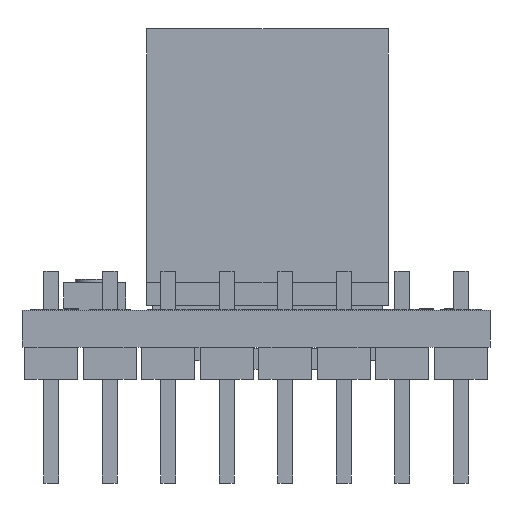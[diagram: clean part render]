
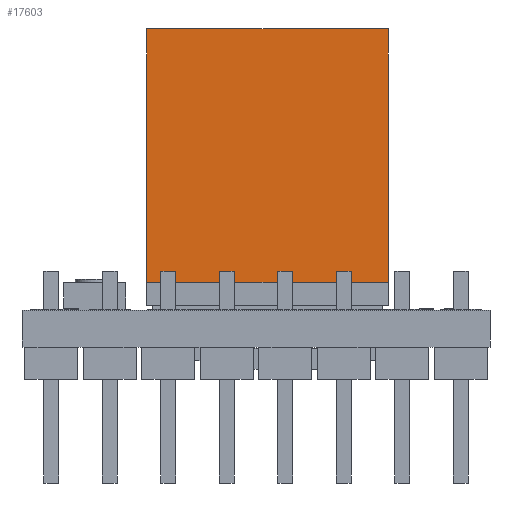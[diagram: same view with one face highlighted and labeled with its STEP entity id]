
A CAD part, left-side view. The second image highlights one B-rep face of the part: STEP entity #17603.
In plain terms, the highlighted planar face has unit normal (-1, 0, 0).
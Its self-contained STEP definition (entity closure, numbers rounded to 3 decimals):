
#17603 = ADVANCED_FACE('',(#17604),#17618,.F.);
#17604 = FACE_BOUND('',#17605,.F.);
#17605 = EDGE_LOOP('',(#17606,#17641,#17669,#17697));
#17606 = ORIENTED_EDGE('',*,*,#17607,.F.);
#17607 = EDGE_CURVE('',#17608,#17610,#17612,.T.);
#17608 = VERTEX_POINT('',#17609);
#17609 = CARTESIAN_POINT('',(-4.175,-5.75,11.315));
#17610 = VERTEX_POINT('',#17611);
#17611 = CARTESIAN_POINT('',(-4.175,-5.75,22.315));
#17612 = SURFACE_CURVE('',#17613,(#17617,#17629),.PCURVE_S1.);
#17613 = LINE('',#17614,#17615);
#17614 = CARTESIAN_POINT('',(-4.175,-5.75,11.315));
#17615 = VECTOR('',#17616,1.);
#17616 = DIRECTION('',(0.,0.,1.));
#17617 = PCURVE('',#17618,#17623);
#17618 = PLANE('',#17619);
#17619 = AXIS2_PLACEMENT_3D('',#17620,#17621,#17622);
#17620 = CARTESIAN_POINT('',(-4.175,-5.75,11.315));
#17621 = DIRECTION('',(1.,0.,0.));
#17622 = DIRECTION('',(0.,0.,1.));
#17623 = DEFINITIONAL_REPRESENTATION('',(#17624),#17628);
#17624 = LINE('',#17625,#17626);
#17625 = CARTESIAN_POINT('',(0.,0.));
#17626 = VECTOR('',#17627,1.);
#17627 = DIRECTION('',(1.,0.));
#17628 = ( GEOMETRIC_REPRESENTATION_CONTEXT(2) 
PARAMETRIC_REPRESENTATION_CONTEXT() REPRESENTATION_CONTEXT('2D SPACE',''
  ) );
#17629 = PCURVE('',#17630,#17635);
#17630 = PLANE('',#17631);
#17631 = AXIS2_PLACEMENT_3D('',#17632,#17633,#17634);
#17632 = CARTESIAN_POINT('',(-4.175,-5.75,11.315));
#17633 = DIRECTION('',(0.,1.,0.));
#17634 = DIRECTION('',(0.,0.,1.));
#17635 = DEFINITIONAL_REPRESENTATION('',(#17636),#17640);
#17636 = LINE('',#17637,#17638);
#17637 = CARTESIAN_POINT('',(0.,0.));
#17638 = VECTOR('',#17639,1.);
#17639 = DIRECTION('',(1.,0.));
#17640 = ( GEOMETRIC_REPRESENTATION_CONTEXT(2) 
PARAMETRIC_REPRESENTATION_CONTEXT() REPRESENTATION_CONTEXT('2D SPACE',''
  ) );
#17641 = ORIENTED_EDGE('',*,*,#17642,.T.);
#17642 = EDGE_CURVE('',#17608,#17643,#17645,.T.);
#17643 = VERTEX_POINT('',#17644);
#17644 = CARTESIAN_POINT('',(-4.175,4.75,11.315));
#17645 = SURFACE_CURVE('',#17646,(#17650,#17657),.PCURVE_S1.);
#17646 = LINE('',#17647,#17648);
#17647 = CARTESIAN_POINT('',(-4.175,-5.75,11.315));
#17648 = VECTOR('',#17649,1.);
#17649 = DIRECTION('',(0.,1.,0.));
#17650 = PCURVE('',#17618,#17651);
#17651 = DEFINITIONAL_REPRESENTATION('',(#17652),#17656);
#17652 = LINE('',#17653,#17654);
#17653 = CARTESIAN_POINT('',(0.,0.));
#17654 = VECTOR('',#17655,1.);
#17655 = DIRECTION('',(0.,-1.));
#17656 = ( GEOMETRIC_REPRESENTATION_CONTEXT(2) 
PARAMETRIC_REPRESENTATION_CONTEXT() REPRESENTATION_CONTEXT('2D SPACE',''
  ) );
#17657 = PCURVE('',#17658,#17663);
#17658 = PLANE('',#17659);
#17659 = AXIS2_PLACEMENT_3D('',#17660,#17661,#17662);
#17660 = CARTESIAN_POINT('',(-4.175,-5.75,11.315));
#17661 = DIRECTION('',(0.,0.,1.));
#17662 = DIRECTION('',(1.,0.,0.));
#17663 = DEFINITIONAL_REPRESENTATION('',(#17664),#17668);
#17664 = LINE('',#17665,#17666);
#17665 = CARTESIAN_POINT('',(0.,0.));
#17666 = VECTOR('',#17667,1.);
#17667 = DIRECTION('',(0.,1.));
#17668 = ( GEOMETRIC_REPRESENTATION_CONTEXT(2) 
PARAMETRIC_REPRESENTATION_CONTEXT() REPRESENTATION_CONTEXT('2D SPACE',''
  ) );
#17669 = ORIENTED_EDGE('',*,*,#17670,.T.);
#17670 = EDGE_CURVE('',#17643,#17671,#17673,.T.);
#17671 = VERTEX_POINT('',#17672);
#17672 = CARTESIAN_POINT('',(-4.175,4.75,22.315));
#17673 = SURFACE_CURVE('',#17674,(#17678,#17685),.PCURVE_S1.);
#17674 = LINE('',#17675,#17676);
#17675 = CARTESIAN_POINT('',(-4.175,4.75,11.315));
#17676 = VECTOR('',#17677,1.);
#17677 = DIRECTION('',(0.,0.,1.));
#17678 = PCURVE('',#17618,#17679);
#17679 = DEFINITIONAL_REPRESENTATION('',(#17680),#17684);
#17680 = LINE('',#17681,#17682);
#17681 = CARTESIAN_POINT('',(0.,-10.5));
#17682 = VECTOR('',#17683,1.);
#17683 = DIRECTION('',(1.,0.));
#17684 = ( GEOMETRIC_REPRESENTATION_CONTEXT(2) 
PARAMETRIC_REPRESENTATION_CONTEXT() REPRESENTATION_CONTEXT('2D SPACE',''
  ) );
#17685 = PCURVE('',#17686,#17691);
#17686 = PLANE('',#17687);
#17687 = AXIS2_PLACEMENT_3D('',#17688,#17689,#17690);
#17688 = CARTESIAN_POINT('',(-4.175,4.75,11.315));
#17689 = DIRECTION('',(0.,1.,0.));
#17690 = DIRECTION('',(0.,0.,1.));
#17691 = DEFINITIONAL_REPRESENTATION('',(#17692),#17696);
#17692 = LINE('',#17693,#17694);
#17693 = CARTESIAN_POINT('',(0.,0.));
#17694 = VECTOR('',#17695,1.);
#17695 = DIRECTION('',(1.,0.));
#17696 = ( GEOMETRIC_REPRESENTATION_CONTEXT(2) 
PARAMETRIC_REPRESENTATION_CONTEXT() REPRESENTATION_CONTEXT('2D SPACE',''
  ) );
#17697 = ORIENTED_EDGE('',*,*,#17698,.F.);
#17698 = EDGE_CURVE('',#17610,#17671,#17699,.T.);
#17699 = SURFACE_CURVE('',#17700,(#17704,#17711),.PCURVE_S1.);
#17700 = LINE('',#17701,#17702);
#17701 = CARTESIAN_POINT('',(-4.175,-5.75,22.315));
#17702 = VECTOR('',#17703,1.);
#17703 = DIRECTION('',(0.,1.,0.));
#17704 = PCURVE('',#17618,#17705);
#17705 = DEFINITIONAL_REPRESENTATION('',(#17706),#17710);
#17706 = LINE('',#17707,#17708);
#17707 = CARTESIAN_POINT('',(11.,0.));
#17708 = VECTOR('',#17709,1.);
#17709 = DIRECTION('',(0.,-1.));
#17710 = ( GEOMETRIC_REPRESENTATION_CONTEXT(2) 
PARAMETRIC_REPRESENTATION_CONTEXT() REPRESENTATION_CONTEXT('2D SPACE',''
  ) );
#17711 = PCURVE('',#17712,#17717);
#17712 = PLANE('',#17713);
#17713 = AXIS2_PLACEMENT_3D('',#17714,#17715,#17716);
#17714 = CARTESIAN_POINT('',(-4.175,-5.75,22.315));
#17715 = DIRECTION('',(0.,0.,1.));
#17716 = DIRECTION('',(1.,0.,0.));
#17717 = DEFINITIONAL_REPRESENTATION('',(#17718),#17722);
#17718 = LINE('',#17719,#17720);
#17719 = CARTESIAN_POINT('',(0.,0.));
#17720 = VECTOR('',#17721,1.);
#17721 = DIRECTION('',(0.,1.));
#17722 = ( GEOMETRIC_REPRESENTATION_CONTEXT(2) 
PARAMETRIC_REPRESENTATION_CONTEXT() REPRESENTATION_CONTEXT('2D SPACE',''
  ) );
